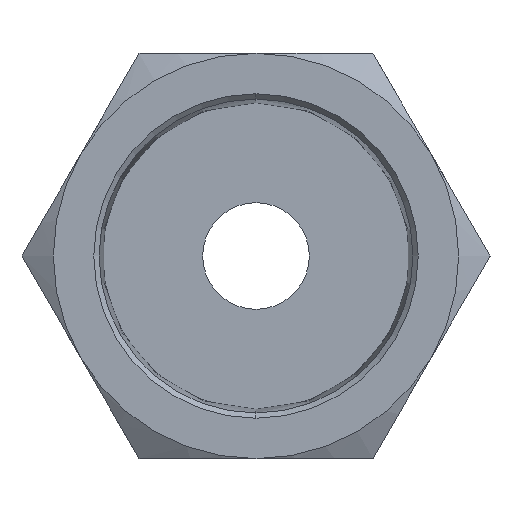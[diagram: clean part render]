
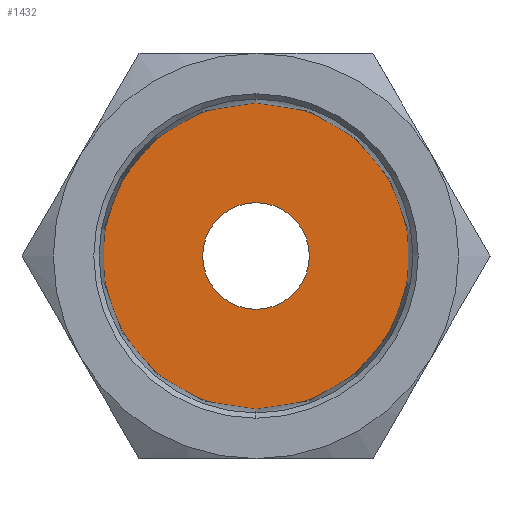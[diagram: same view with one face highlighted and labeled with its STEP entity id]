
A CAD part, left-side view. The second image highlights one B-rep face of the part: STEP entity #1432.
In plain terms, the highlighted planar face has unit normal (-1, 0, 0).
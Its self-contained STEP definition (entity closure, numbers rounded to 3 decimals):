
#1 = EDGE_LOOP ( 'NONE', ( #2, #3 ) ) ;
#2 = ORIENTED_EDGE ( 'NONE', *, *, #107, .T. ) ;
#3 = ORIENTED_EDGE ( 'NONE', *, *, #1693, .T. ) ;
#107 = EDGE_CURVE ( 'NONE', #1695, #1694, #1487, .T. ) ;
#457 = DIRECTION ( 'NONE',  ( 0., 0., 1. ) ) ;
#897 = DIRECTION ( 'NONE',  ( 0., 0., 1. ) ) ;
#898 = DIRECTION ( 'NONE',  ( -1., 0., 0. ) ) ;
#899 = CARTESIAN_POINT ( 'NONE',  ( 8.13, 0., 0. ) ) ;
#900 = AXIS2_PLACEMENT_3D ( 'NONE', #899, #898, #897 ) ;
#901 = DIRECTION ( 'NONE',  ( 0., 0., 1. ) ) ;
#902 = DIRECTION ( 'NONE',  ( -1., 0., 0. ) ) ;
#903 = AXIS2_PLACEMENT_3D ( 'NONE', #905, #902, #901 ) ;
#904 = CIRCLE ( 'NONE', #900, 10.203 ) ;
#905 = CARTESIAN_POINT ( 'NONE',  ( 8.13, 0., 0. ) ) ;
#906 = PLANE ( 'NONE',  #903 ) ;
#907 = FACE_BOUND ( 'NONE', #1, .T. ) ;
#908 = FACE_OUTER_BOUND ( 'NONE', #1433, .T. ) ;
#1138 = CARTESIAN_POINT ( 'NONE',  ( 8.13, 0., 10.203 ) ) ;
#1139 = CARTESIAN_POINT ( 'NONE',  ( 8.13, 0., 0. ) ) ;
#1157 = CARTESIAN_POINT ( 'NONE',  ( 8.13, 0., -10.203 ) ) ;
#1158 = DIRECTION ( 'NONE',  ( 0., 0., 1. ) ) ;
#1159 = DIRECTION ( 'NONE',  ( -1., 0., 0. ) ) ;
#1160 = AXIS2_PLACEMENT_3D ( 'NONE', #1139, #1159, #1158 ) ;
#1161 = CIRCLE ( 'NONE', #1160, 10.203 ) ;
#1234 = DIRECTION ( 'NONE',  ( 0., 0., 1. ) ) ;
#1235 = DIRECTION ( 'NONE',  ( 1., 0., 0. ) ) ;
#1236 = CARTESIAN_POINT ( 'NONE',  ( 8.13, 0., 0. ) ) ;
#1237 = AXIS2_PLACEMENT_3D ( 'NONE', #1236, #1235, #1234 ) ;
#1321 = CARTESIAN_POINT ( 'NONE',  ( 8.13, 0., -3.55 ) ) ;
#1322 = CARTESIAN_POINT ( 'NONE',  ( 8.13, 0., 3.55 ) ) ;
#1324 = CIRCLE ( 'NONE', #1237, 3.55 ) ;
#1432 = ADVANCED_FACE ( 'NONE', ( #908, #907 ), #906, .T. ) ;
#1433 = EDGE_LOOP ( 'NONE', ( #1434, #1452 ) ) ;
#1434 = ORIENTED_EDGE ( 'NONE', *, *, #1435, .T. ) ;
#1435 = EDGE_CURVE ( 'NONE', #1589, #1588, #904, .T. ) ;
#1452 = ORIENTED_EDGE ( 'NONE', *, *, #1587, .T. ) ;
#1480 = DIRECTION ( 'NONE',  ( 1., 0., 0. ) ) ;
#1481 = CARTESIAN_POINT ( 'NONE',  ( 8.13, 0., 0. ) ) ;
#1482 = AXIS2_PLACEMENT_3D ( 'NONE', #1481, #1480, #457 ) ;
#1487 = CIRCLE ( 'NONE', #1482, 3.55 ) ;
#1587 = EDGE_CURVE ( 'NONE', #1588, #1589, #1161, .T. ) ;
#1588 = VERTEX_POINT ( 'NONE', #1157 ) ;
#1589 = VERTEX_POINT ( 'NONE', #1138 ) ;
#1693 = EDGE_CURVE ( 'NONE', #1694, #1695, #1324, .T. ) ;
#1694 = VERTEX_POINT ( 'NONE', #1322 ) ;
#1695 = VERTEX_POINT ( 'NONE', #1321 ) ;
